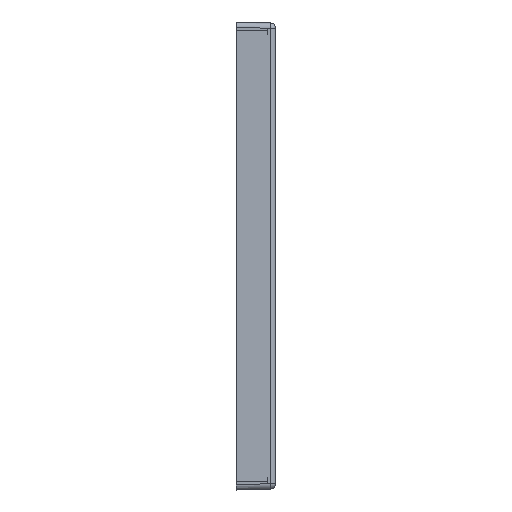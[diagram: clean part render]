
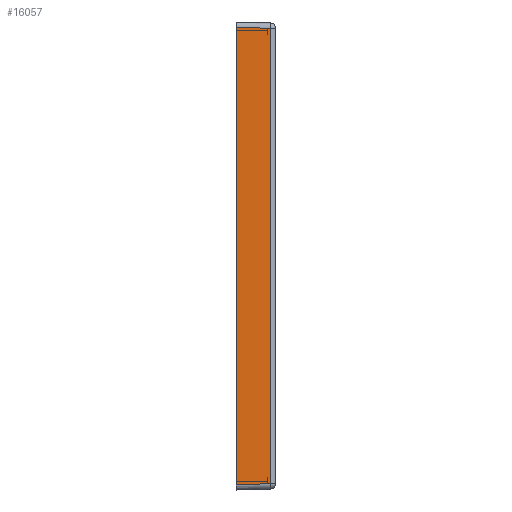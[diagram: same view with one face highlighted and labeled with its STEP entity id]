
A CAD part, left-side view. The second image highlights one B-rep face of the part: STEP entity #16057.
In plain terms, the highlighted planar face has unit normal (-1, -0.026, 0).
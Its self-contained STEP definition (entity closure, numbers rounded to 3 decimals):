
#477 = CARTESIAN_POINT ( 'NONE',  ( -146.334, -5.326, -47. ) ) ;
#733 = CARTESIAN_POINT ( 'NONE',  ( -146.334, -5.326, 38.835 ) ) ;
#1230 = ORIENTED_EDGE ( 'NONE', *, *, #1786, .F. ) ;
#1767 = CARTESIAN_POINT ( 'NONE',  ( -146.334, -5.326, -45.835 ) ) ;
#1786 = EDGE_CURVE ( 'NONE', #2126, #15290, #6962, .T. ) ;
#2126 = VERTEX_POINT ( 'NONE', #9265 ) ;
#3064 = CARTESIAN_POINT ( 'NONE',  ( -146.5, 1., -47. ) ) ;
#3710 = DIRECTION ( 'NONE',  ( 0.026, -0.999, 0.026 ) ) ;
#4184 = LINE ( 'NONE', #12106, #24235 ) ;
#4285 = VECTOR ( 'NONE', #3710, 1000. ) ;
#5633 = ORIENTED_EDGE ( 'NONE', *, *, #24195, .T. ) ;
#6278 = VERTEX_POINT ( 'NONE', #733 ) ;
#6834 = DIRECTION ( 'NONE',  ( 0., 0., 1. ) ) ;
#6962 = LINE ( 'NONE', #3064, #25068 ) ;
#7548 = ORIENTED_EDGE ( 'NONE', *, *, #25631, .T. ) ;
#9265 = CARTESIAN_POINT ( 'NONE',  ( -146.5, 1., -46. ) ) ;
#9470 = EDGE_CURVE ( 'NONE', #19597, #6278, #10080, .T. ) ;
#10080 = LINE ( 'NONE', #477, #12436 ) ;
#10153 = DIRECTION ( 'NONE',  ( -0.026, 0.999, 0.026 ) ) ;
#10597 = EDGE_LOOP ( 'NONE', ( #1230, #5633, #22872, #7548 ) ) ;
#12106 = CARTESIAN_POINT ( 'NONE',  ( -146.441, -1.249, 38.941 ) ) ;
#12116 = DIRECTION ( 'NONE',  ( -0.026, 1., 0. ) ) ;
#12436 = VECTOR ( 'NONE', #24483, 1000. ) ;
#14069 = FACE_OUTER_BOUND ( 'NONE', #10597, .T. ) ;
#15290 = VERTEX_POINT ( 'NONE', #16231 ) ;
#15784 = CARTESIAN_POINT ( 'NONE',  ( -146.501, 1.026, -46.001 ) ) ;
#16057 = ADVANCED_FACE ( 'NONE', ( #14069 ), #21973, .T. ) ;
#16231 = CARTESIAN_POINT ( 'NONE',  ( -146.5, 1., 39. ) ) ;
#17313 = AXIS2_PLACEMENT_3D ( 'NONE', #21711, #22092, #12116 ) ;
#19419 = LINE ( 'NONE', #15784, #4285 ) ;
#19597 = VERTEX_POINT ( 'NONE', #1767 ) ;
#21711 = CARTESIAN_POINT ( 'NONE',  ( -146.5, 1., -47. ) ) ;
#21973 = PLANE ( 'NONE',  #17313 ) ;
#22092 = DIRECTION ( 'NONE',  ( -1., -0.026, 0. ) ) ;
#22872 = ORIENTED_EDGE ( 'NONE', *, *, #9470, .T. ) ;
#24195 = EDGE_CURVE ( 'NONE', #2126, #19597, #19419, .T. ) ;
#24235 = VECTOR ( 'NONE', #10153, 1000. ) ;
#24483 = DIRECTION ( 'NONE',  ( 0., 0., 1. ) ) ;
#25068 = VECTOR ( 'NONE', #6834, 1000. ) ;
#25631 = EDGE_CURVE ( 'NONE', #6278, #15290, #4184, .T. ) ;
